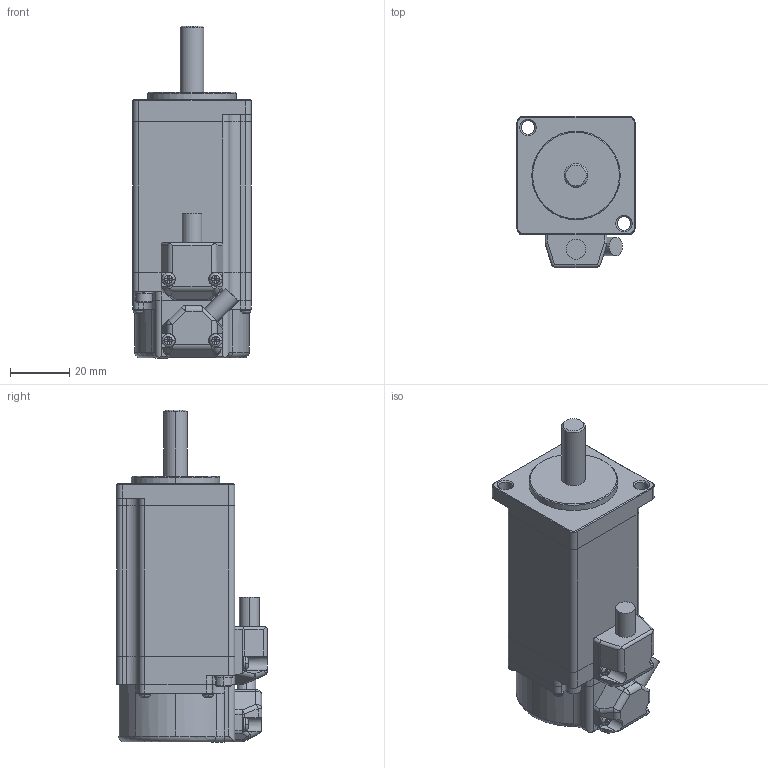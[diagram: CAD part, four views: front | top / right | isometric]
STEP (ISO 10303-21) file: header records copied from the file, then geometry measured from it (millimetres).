
FILE_DESCRIPTION(('Creo Elements/Direct Modeling STEP Export'),'2;1');
FILE_NAME('TS4604_BK無.stp','2016-12-22T16:25:17',(''),(''),'Creo Elements/Direct Modeling STEP processor for AP214 (Solid Model)','Creo Elements/Direct Modeling 17.0F 20-Aug-2012 (C) Parametric Technology GmbH','');
FILE_SCHEMA(('AUTOMOTIVE_DESIGN { 1 0 10303 214 1 1 1 1 }'));
Length unit declared in the file: millimetre
Products named in the file (2): TS4604N1000; ﾓｰﾀ
Assembly tree (1 placements, depth 2):
  ﾓｰﾀ
    TS4604N1000
Bounding box: 40 x 51.1 x 112.5 mm (x, y, z)
Volume: 135172.2 mm3; surface area: 18842.2 mm2
Topology: 1 solids, 1 shells, 564 faces, 1318 edges, 751 vertices
Faces by surface type: plane 265, cylinder 199, cone 50, sphere 31, torus 19
Entity records: 16450 total; most frequent: CARTESIAN_POINT 4138, DIRECTION 2605, ORIENTED_EDGE 2602, EDGE_CURVE 1301, AXIS2_PLACEMENT_3D 1023, VERTEX_POINT 751, EDGE_LOOP 584, FACE_OUTER_BOUND 564
